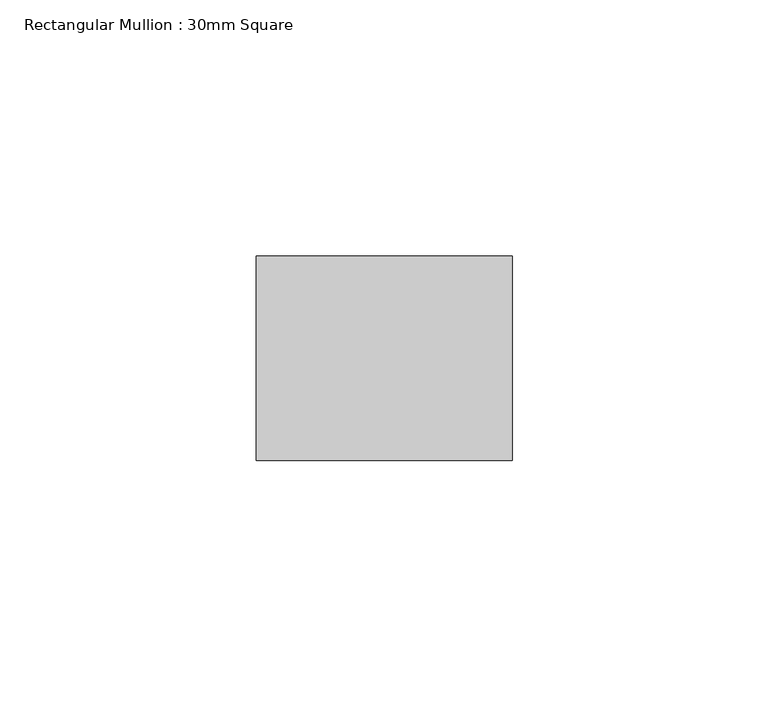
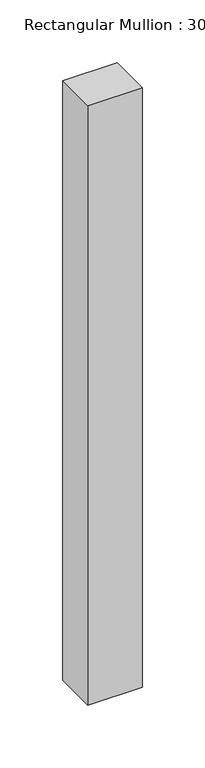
"""IFC4 building model written with IfcOpenShell, lengths in millimetres: member geometry, Rectangular Mullion : 30mm Square."""

from ifc_helpers import new_model, si_unit, frame, origin, place, context, project, spatial, polyline, outline, extrude, source, transform, mapped, element, save


def rectangular_mullion_30mm_square_d3a20935(model_context):
    return source(origin(), model_context, "Body", "SweptSolid", [
        extrude(outline(polyline([(0.0, 20.0), (0.0, -20.0), (-50.0, -20.0), (-50.0, 20.0), (0.0, 20.0)])), frame((0.0, 0.0, -583.4400063), z_axis=(0.0, 0.0, 1.0), x_axis=(1.0, 0.0, 0.0)), (0.0, 0.0, 1.0), 583.4400063),
    ])


if __name__ == "__main__":
    model = new_model("IFC4")
    model_context = context("Model", 3, world=origin())
    ifc_project = project(units=[si_unit("LENGTHUNIT", "METRE", prefix="MILLI")], contexts=[model_context])
    site = spatial("IfcSite", under=ifc_project)
    building = spatial("IfcBuilding", under=site)
    placement = place(None, origin())
    rectangular_mullion_30mm_square_shape = rectangular_mullion_30mm_square_d3a20935(model_context)
    element("IfcMember", 1, ObjectType="Rectangular Mullion : 30mm Square", at=placement, inside=building, context=model_context, shape_type="MappedRepresentation", body=[
        mapped(rectangular_mullion_30mm_square_shape, transform((0.0, 0.0, 0.0), x_axis=(1.0, 0.0, 0.0), y_axis=(0.0, 1.0, 0.0), z_axis=(0.0, 0.0, 1.0))),
    ])
    save(model, "model.ifc")
